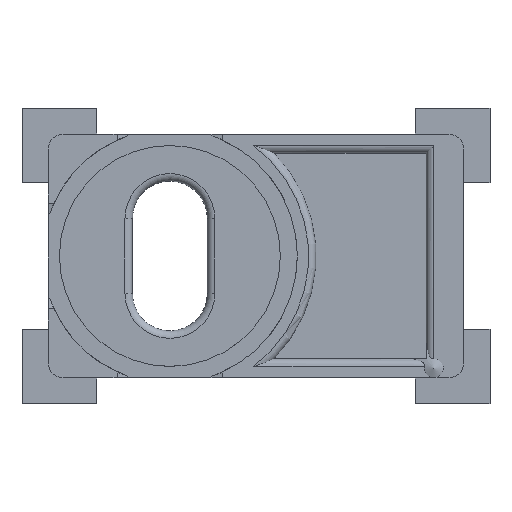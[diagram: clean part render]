
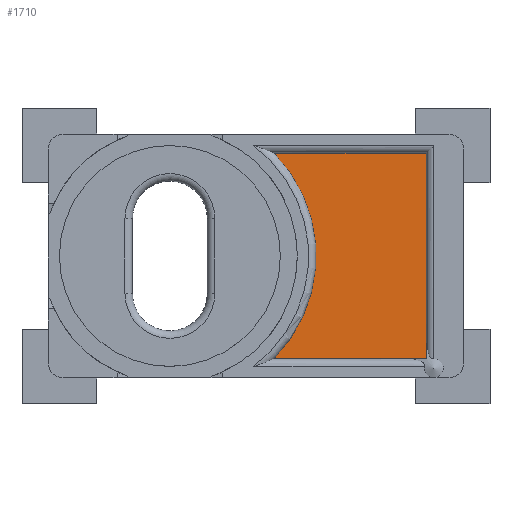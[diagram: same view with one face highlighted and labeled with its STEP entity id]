
A CAD part, top view. The second image highlights one B-rep face of the part: STEP entity #1710.
In plain terms, the highlighted planar face has unit normal (0, 0, 1).
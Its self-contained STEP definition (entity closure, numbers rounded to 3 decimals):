
#201=FACE_OUTER_BOUND('',#299,.T.);
#299=EDGE_LOOP('',(#1377,#1378,#1379,#1380));
#444=LINE('',#3008,#563);
#451=LINE('',#3034,#570);
#452=LINE('',#3036,#571);
#563=VECTOR('',#2159,40.775);
#570=VECTOR('',#2182,55.);
#571=VECTOR('',#2185,40.775);
#620=CIRCLE('',#1832,39.05);
#766=VERTEX_POINT('',#2996);
#767=VERTEX_POINT('',#2998);
#769=VERTEX_POINT('',#3006);
#777=VERTEX_POINT('',#3032);
#980=EDGE_CURVE('',#766,#767,#620,.T.);
#984=EDGE_CURVE('',#769,#766,#444,.T.);
#997=EDGE_CURVE('',#777,#769,#451,.T.);
#998=EDGE_CURVE('',#767,#777,#452,.T.);
#1377=ORIENTED_EDGE('',*,*,#998,.F.);
#1378=ORIENTED_EDGE('',*,*,#980,.F.);
#1379=ORIENTED_EDGE('',*,*,#984,.F.);
#1380=ORIENTED_EDGE('',*,*,#997,.F.);
#1646=PLANE('',#1843);
#1710=ADVANCED_FACE('',(#201),#1646,.T.);
#1832=AXIS2_PLACEMENT_3D('',#2999,#2153,#2154);
#1843=AXIS2_PLACEMENT_3D('',#3037,#2186,#2187);
#2153=DIRECTION('center_axis',(0.,0.,1.));
#2154=DIRECTION('ref_axis',(-0.71,0.704,0.));
#2159=DIRECTION('',(-1.,0.,0.));
#2182=DIRECTION('',(0.,-1.,0.));
#2185=DIRECTION('',(1.,0.,0.));
#2186=DIRECTION('center_axis',(0.,0.,1.));
#2187=DIRECTION('ref_axis',(1.,0.,0.));
#2996=CARTESIAN_POINT('',(60.225,5.,1.1));
#2998=CARTESIAN_POINT('',(60.225,60.,1.1));
#2999=CARTESIAN_POINT('Origin',(32.5,32.5,1.1));
#3006=CARTESIAN_POINT('',(101.,5.,1.1));
#3008=CARTESIAN_POINT('',(52.579,5.,1.1));
#3032=CARTESIAN_POINT('',(101.,60.,1.1));
#3034=CARTESIAN_POINT('',(101.,5.,1.1));
#3036=CARTESIAN_POINT('',(111.,60.,1.1));
#3037=CARTESIAN_POINT('Origin',(83.52,32.5,1.1));
